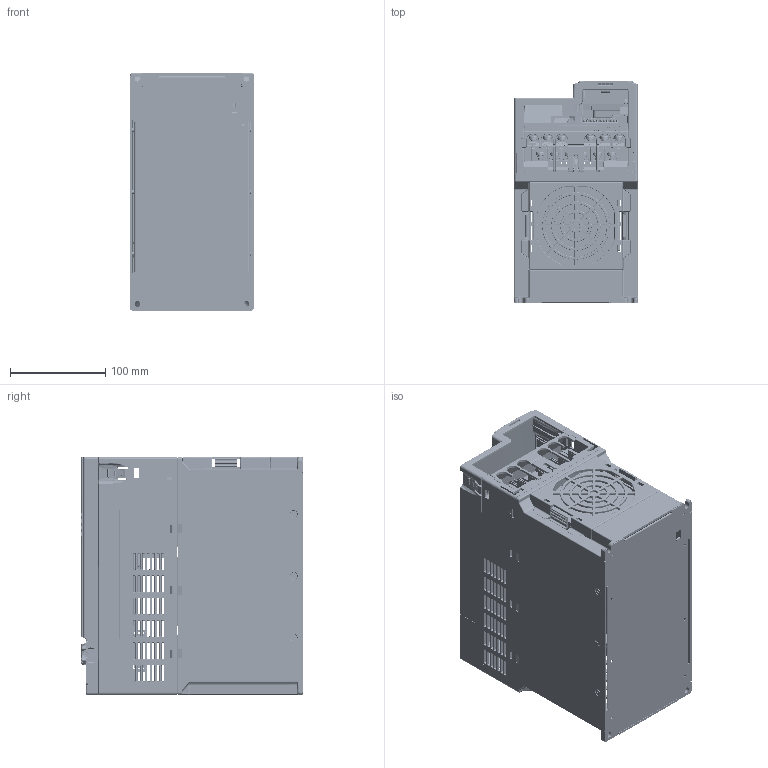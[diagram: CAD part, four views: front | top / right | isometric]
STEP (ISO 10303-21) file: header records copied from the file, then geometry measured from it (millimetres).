
FILE_DESCRIPTION((''),'2;1');
FILE_NAME('ASM0001_ASM_1_ASM_1_ASM','2023-12-28T09:34:52',('EDWARD.LIAO'),(''),'CREO PARAMETRIC BY PTC INC, 2022162','CREO PARAMETRIC BY PTC INC, 2022162','');
FILE_SCHEMA(('AUTOMOTIVE_DESIGN { 1 0 10303 214 1 1 1 1 }'));
Products named in the file (200): VFD-MH300-E2-PD-3D01_57_1_1; VFD-MH300-E2-PD-3D01_58_1_1; VFD-MH300-E2-PD-3D01_59_1_1; VFD-MH300-E2-PD-3D01_60_1_1; VFD-MH300-E2-PD-3D01_61_1_1; VFD-MH300-E2-PD-3D01_62_1_1; VFD-MH300-E2-PD-3D01_64_1_1; VFD-MH300-E2-PD-3D01_67_1_1; VFD-MH300-E2-PD-3D01_74_1_1; VFD-MH300-E2-PD-3D01_81_1_1; VFD-MH300-E2-PD-3D01_82_1_1; VFD-MH300-E2-PD-3D01_83_1_1; VFD-MH300-E2-PD-3D01_84_1_1; VFD-MH300-E2-PD-3D01_87_1_1; VFD-MH300-E2-PD-3D01_90_1_1; VFD-MH300-E2-PD-3D01_94_1_1; VFD-MH300-E2-PD-3D01_95_1_1; VFD-MH300-E2-PD-3D01_96_1_1; VFD-MH300-E2-PD-3D01_97_1_1; VFD-MH300-E2-PD-3D01_99_1_1; VFD-MH300-E2-PD-3D01_100_1_1; VFD-MH300-E2-PD-3D01_101_1_1; VFD-MH300-E2-PD-3D01_103_1_1; VFD-MH300-E2-PD-3D01_104_1_1; VFD-MH300-E2-PD-3D01_105_1_1; VFD-MH300-E2-PD-3D01_107_1_1; VFD-MH300-E2-PD-3D01_108_1_1; VFD-MH300-E2-PD-3D01_109_1_1; VFD-MH300-E2-PD-3D01_111_1_1; VFD-MH300-E2-PD-3D01_112_1_1; VFD-MH300-E2-PD-3D01_113_1_1; VFD-MH300-E2-PD-3D01_115_1_1; VFD-MH300-E2-PD-3D01_116_1_1; VFD-MH300-E2-PD-3D01_117_1_1; VFD-MH300-E2-PD-3D01_119_1_1; VFD-MH300-E2-PD-3D01_120_1_1; VFD-MH300-E2-PD-3D01_121_1_1; VFD-MH300-E2-PD-3D01_123_1_1; VFD-MH300-E2-PD-3D01_124_1_1; VFD-MH300-E2-PD-3D01_125_1_1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
Assembly tree (199 placements, depth 4):
  ASM0001_ASM_1_ASM_1_ASM
    VFD-MH300-E2-PD-3D01_57_1_1
    VFD-MH300-E2-PD-3D01_58_1_1
    VFD-MH300-E2-PD-3D01_59_1_1
    VFD-MH300-E2-PD-3D01_60_1_1
    VFD-MH300-E2-PD-3D01_61_1_1
    VFD-MH300-E2-PD-3D01_62_1_1
    VFD-MH300-E2-PD-3D01_64_1_1
    VFD-MH300-E2-PD-3D01_67_1_1
    VFD-MH300-E2-PD-3D01_74_1_1
    VFD-MH300-E2-PD-3D01_81_1_1
    VFD-MH300-E2-PD-3D01_82_1_1
    VFD-MH300-E2-PD-3D01_83_1_1
    VFD-MH300-E2-PD-3D01_84_1_1
    VFD-MH300-E2-PD-3D01_87_1_1
    VFD-MH300-E2-PD-3D01_90_1_1
    VFD-MH300-E2-PD-3D01_94_1_1
    VFD-MH300-E2-PD-3D01_95_1_1
    VFD-MH300-E2-PD-3D01_96_1_1
    VFD-MH300-E2-PD-3D01_97_1_1
    VFD-MH300-E2-PD-3D01_99_1_1
    VFD-MH300-E2-PD-3D01_100_1_1
    VFD-MH300-E2-PD-3D01_101_1_1
    VFD-MH300-E2-PD-3D01_103_1_1
    VFD-MH300-E2-PD-3D01_104_1_1
    VFD-MH300-E2-PD-3D01_105_1_1
    VFD-MH300-E2-PD-3D01_107_1_1
    VFD-MH300-E2-PD-3D01_108_1_1
    VFD-MH300-E2-PD-3D01_109_1_1
    VFD-MH300-E2-PD-3D01_111_1_1
    VFD-MH300-E2-PD-3D01_112_1_1
    VFD-MH300-E2-PD-3D01_113_1_1
    VFD-MH300-E2-PD-3D01_115_1_1
    VFD-MH300-E2-PD-3D01_116_1_1
    VFD-MH300-E2-PD-3D01_117_1_1
    VFD-MH300-E2-PD-3D01_119_1_1
    VFD-MH300-E2-PD-3D01_120_1_1
    VFD-MH300-E2-PD-3D01_121_1_1
    VFD-MH300-E2-PD-3D01_123_1_1
    VFD-MH300-E2-PD-3D01_124_1_1
    VFD-MH300-E2-PD-3D01_125_1_1
    VFD-MH300-E2-PD-3D01_127_1_1
    VFD-MH300-E2-PD-3D01_128_1_1
    VFD-MH300-E2-PD-3D01_129_1_1
    VFD-MH300-E2-PD-3D01_131_1_1
    VFD-MH300-E2-PD-3D01_132_1_1
    VFD-MH300-E2-PD-3D01_133_1_1
    VFD-MH300-E2-PD-3D01_135_1_1
    VFD-MH300-E2-PD-3D01_136_1_1
    VFD-MH300-E2-PD-3D01_137_1_1
    VFD-MH300-E2-PD-3D01_139_1_1
    VFD-MH300-E2-PD-3D01_140_1_1
    VFD-MH300-E2-PD-3D01_141_1_1
    VFD-MH300-E2-PD-3D01_143_1_1
    CAD0000911718_1
    MH-CTR_ASM_1_ASM
      CAD0000911459_ASM_1_ASM_1_ASM
        CAD0000911457_1_1_1
        CAD0000911457_2_1_1
        CAD0000911457_3_1_1
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Bounding box: 130.8 x 234 x 250.3 mm (x, y, z)
Volume: 782426.1 mm3; surface area: 673457.8 mm2
Topology: 195 solids, 203 shells, 24495 faces, 67196 edges, 42916 vertices
Faces by surface type: plane 14086, cylinder 5872, cone 1607, bspline 1119, torus 1044, extrusion 638, sphere 127, revolution 2
Entity records: 1032721 total; most frequent: CARTESIAN_POINT 231291, ORIENTED_EDGE 133385, DIRECTION 123237, EDGE_CURVE 66955, VECTOR 46631, LINE 45993, VERTEX_POINT 42876, PRESENTATION_STYLE_ASSIGNMENT 39614
